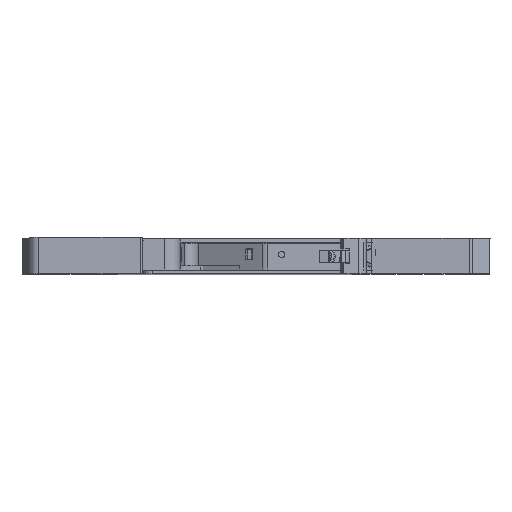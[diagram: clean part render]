
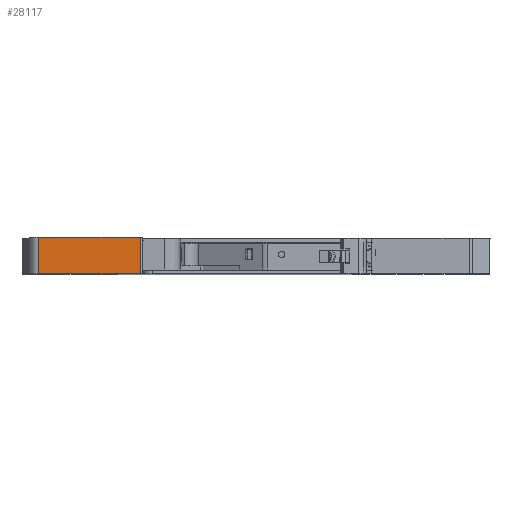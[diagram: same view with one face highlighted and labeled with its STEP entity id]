
A CAD part, top view. The second image highlights one B-rep face of the part: STEP entity #28117.
In plain terms, the highlighted planar face has unit normal (0, 0, 1) as drawn and (0, -1, 0) by its records, which use the part's own axes.
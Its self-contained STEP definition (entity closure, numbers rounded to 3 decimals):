
#17466=DIRECTION('',(1.,0.,0.));
#17467=VECTOR('',#17466,21.15);
#17468=CARTESIAN_POINT('',(19.85,-6.501,
-0.2));
#17469=LINE('',#17468,#17467);
#17945=DIRECTION('',(0.,0.,-1.));
#17946=VECTOR('',#17945,7.6);
#17947=CARTESIAN_POINT('',(19.85,-6.501,
7.4));
#17948=LINE('',#17947,#17946);
#17959=DIRECTION('',(1.,0.,0.));
#17960=VECTOR('',#17959,21.15);
#17961=CARTESIAN_POINT('',(19.85,-6.501,
7.4));
#17962=LINE('',#17961,#17960);
#17973=DIRECTION('',(0.,0.,1.));
#17974=VECTOR('',#17973,7.6);
#17975=CARTESIAN_POINT('',(41.,-6.501,
-0.2));
#17976=LINE('',#17975,#17974);
#19384=CARTESIAN_POINT('',(41.,-6.501,
7.4));
#19385=VERTEX_POINT('',#19384);
#19386=CARTESIAN_POINT('',(19.85,-6.501,
7.4));
#19387=VERTEX_POINT('',#19386);
#19602=CARTESIAN_POINT('',(19.85,-6.501,
-0.2));
#19603=VERTEX_POINT('',#19602);
#19604=CARTESIAN_POINT('',(41.,-6.501,
-0.2));
#19605=VERTEX_POINT('',#19604);
#28105=CARTESIAN_POINT('',(41.,-6.501,
6.6));
#28106=DIRECTION('',(0.,-1.,0.));
#28107=DIRECTION('',(-1.,0.,0.));
#28108=AXIS2_PLACEMENT_3D('',#28105,#28106,#28107);
#28109=PLANE('',#28108);
#28110=ORIENTED_EDGE('',*,*,#21807,.T.);
#28112=ORIENTED_EDGE('',*,*,#28111,.F.);
#28113=ORIENTED_EDGE('',*,*,#27777,.F.);
#28114=ORIENTED_EDGE('',*,*,#28098,.F.);
#28115=EDGE_LOOP('',(#28110,#28112,#28113,#28114));
#28116=FACE_OUTER_BOUND('',#28115,.F.);
#28117=ADVANCED_FACE('',(#28116),#28109,.T.);
#21807=EDGE_CURVE('',#19387,#19385,#17962,.T.);
#27777=EDGE_CURVE('',#19603,#19605,#17469,.T.);
#28098=EDGE_CURVE('',#19387,#19603,#17948,.T.);
#28111=EDGE_CURVE('',#19605,#19385,#17976,.T.);
